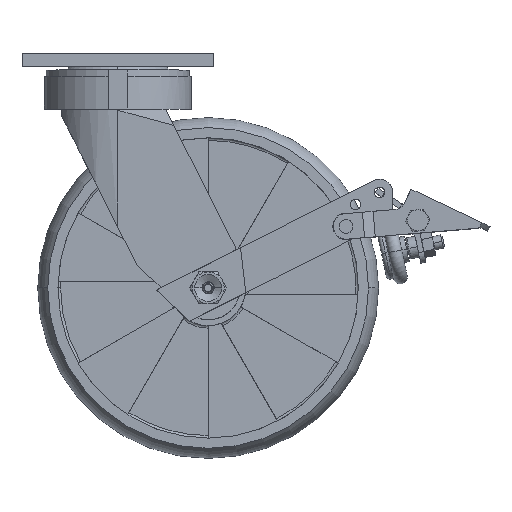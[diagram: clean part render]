
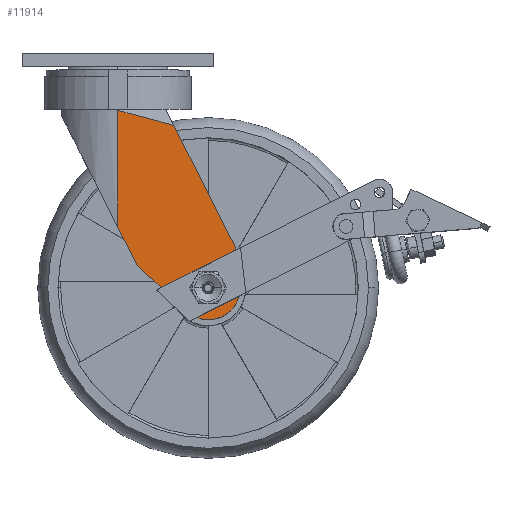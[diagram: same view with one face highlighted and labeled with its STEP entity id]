
A CAD part, top view. The second image highlights one B-rep face of the part: STEP entity #11914.
In plain terms, the highlighted planar face has unit normal (0, 0, 1).
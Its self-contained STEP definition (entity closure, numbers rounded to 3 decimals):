
#99 = ORIENTED_EDGE ( 'NONE', *, *, #7691, .F. ) ;
#593 = EDGE_CURVE ( 'NONE', #19851, #6032, #7371, .T. ) ;
#640 = DIRECTION ( 'NONE',  ( -0.729, 0.685, 0. ) ) ;
#667 = VERTEX_POINT ( 'NONE', #18648 ) ;
#722 = LINE ( 'NONE', #19701, #17463 ) ;
#946 = ORIENTED_EDGE ( 'NONE', *, *, #7251, .F. ) ;
#1041 = CARTESIAN_POINT ( 'NONE',  ( 72.898, -105.525, 37.592 ) ) ;
#1163 = CIRCLE ( 'NONE', #18172, 6.604 ) ;
#1267 = VERTEX_POINT ( 'NONE', #11206 ) ;
#1566 = LINE ( 'NONE', #8561, #2070 ) ;
#1702 = CARTESIAN_POINT ( 'NONE',  ( 72.898, -241.3, 37.592 ) ) ;
#2034 = CARTESIAN_POINT ( 'NONE',  ( 60.452, -106.655, 37.592 ) ) ;
#2070 = VECTOR ( 'NONE', #17775, 1000. ) ;
#2435 = CIRCLE ( 'NONE', #17365, 19.05 ) ;
#2983 = VERTEX_POINT ( 'NONE', #9695 ) ;
#3601 = DIRECTION ( 'NONE',  ( 1., 0., 0. ) ) ;
#3826 = ORIENTED_EDGE ( 'NONE', *, *, #20442, .F. ) ;
#4277 = EDGE_CURVE ( 'NONE', #11734, #19851, #5734, .T. ) ;
#4402 = EDGE_CURVE ( 'NONE', #667, #11591, #2435, .T. ) ;
#4404 = CARTESIAN_POINT ( 'NONE',  ( 53.848, -106.655, 37.592 ) ) ;
#4670 = LINE ( 'NONE', #12889, #5691 ) ;
#4850 = AXIS2_PLACEMENT_3D ( 'NONE', #9566, #17535, #7592 ) ;
#5012 = PLANE ( 'NONE',  #20550 ) ;
#5094 = VECTOR ( 'NONE', #16574, 1000. ) ;
#5185 = EDGE_LOOP ( 'NONE', ( #14166, #10225, #13679, #19974, #99, #15877, #13580, #9064 ) ) ;
#5383 = FACE_BOUND ( 'NONE', #8292, .T. ) ;
#5576 = VECTOR ( 'NONE', #20532, 1000. ) ;
#5691 = VECTOR ( 'NONE', #16350, 1000. ) ;
#5734 = LINE ( 'NONE', #12200, #12011 ) ;
#6032 = VERTEX_POINT ( 'NONE', #13454 ) ;
#6194 = CARTESIAN_POINT ( 'NONE',  ( 87.816, -230.847, 37.592 ) ) ;
#6660 = VERTEX_POINT ( 'NONE', #9287 ) ;
#7251 = EDGE_CURVE ( 'NONE', #1267, #7842, #20479, .T. ) ;
#7371 = LINE ( 'NONE', #14987, #5094 ) ;
#7592 = DIRECTION ( 'NONE',  ( 1., 0., 0. ) ) ;
#7691 = EDGE_CURVE ( 'NONE', #11591, #11734, #722, .T. ) ;
#7842 = VERTEX_POINT ( 'NONE', #2034 ) ;
#8292 = EDGE_LOOP ( 'NONE', ( #946, #3826 ) ) ;
#8504 = VERTEX_POINT ( 'NONE', #1041 ) ;
#8561 = CARTESIAN_POINT ( 'NONE',  ( 60.126, -16.907, 37.592 ) ) ;
#8662 = EDGE_CURVE ( 'NONE', #8504, #667, #19920, .T. ) ;
#9064 = ORIENTED_EDGE ( 'NONE', *, *, #16118, .F. ) ;
#9187 = DIRECTION ( 'NONE',  ( 0., 0., 1. ) ) ;
#9287 = CARTESIAN_POINT ( 'NONE',  ( 33.37, -9.738, 37.592 ) ) ;
#9566 = CARTESIAN_POINT ( 'NONE',  ( 53.848, -106.655, 37.592 ) ) ;
#9582 = LINE ( 'NONE', #6194, #5576 ) ;
#9695 = CARTESIAN_POINT ( 'NONE',  ( 70.173, -82.631, 37.592 ) ) ;
#9868 = CARTESIAN_POINT ( 'NONE',  ( 0., -241.3, 37.592 ) ) ;
#10007 = DIRECTION ( 'NONE',  ( 0., 0., 1. ) ) ;
#10225 = ORIENTED_EDGE ( 'NONE', *, *, #15141, .T. ) ;
#10804 = EDGE_CURVE ( 'NONE', #6660, #2983, #4670, .T. ) ;
#11206 = CARTESIAN_POINT ( 'NONE',  ( 47.244, -106.655, 37.592 ) ) ;
#11591 = VERTEX_POINT ( 'NONE', #16958 ) ;
#11734 = VERTEX_POINT ( 'NONE', #15902 ) ;
#11914 = ADVANCED_FACE ( 'NONE', ( #12174, #5383 ), #5012, .T. ) ;
#12011 = VECTOR ( 'NONE', #18565, 1000. ) ;
#12174 = FACE_OUTER_BOUND ( 'NONE', #5185, .T. ) ;
#12200 = CARTESIAN_POINT ( 'NONE',  ( 68.739, -206.595, 37.592 ) ) ;
#12226 = CARTESIAN_POINT ( 'NONE',  ( 0., -70.446, 37.592 ) ) ;
#12889 = CARTESIAN_POINT ( 'NONE',  ( 119.755, -180.838, 37.592 ) ) ;
#13454 = CARTESIAN_POINT ( 'NONE',  ( 0., -0.796, 37.592 ) ) ;
#13580 = ORIENTED_EDGE ( 'NONE', *, *, #8662, .F. ) ;
#13679 = ORIENTED_EDGE ( 'NONE', *, *, #593, .F. ) ;
#13726 = VECTOR ( 'NONE', #15976, 1000. ) ;
#14166 = ORIENTED_EDGE ( 'NONE', *, *, #10804, .F. ) ;
#14987 = CARTESIAN_POINT ( 'NONE',  ( 0., -241.3, 37.592 ) ) ;
#15141 = EDGE_CURVE ( 'NONE', #6660, #6032, #1566, .T. ) ;
#15630 = DIRECTION ( 'NONE',  ( 1., 0., 0. ) ) ;
#15720 = DIRECTION ( 'NONE',  ( 1., 0., 0. ) ) ;
#15877 = ORIENTED_EDGE ( 'NONE', *, *, #4402, .F. ) ;
#15902 = CARTESIAN_POINT ( 'NONE',  ( 11.293, -92.815, 37.592 ) ) ;
#15976 = DIRECTION ( 'NONE',  ( 0., -1., 0. ) ) ;
#16118 = EDGE_CURVE ( 'NONE', #2983, #8504, #9582, .T. ) ;
#16350 = DIRECTION ( 'NONE',  ( 0.451, -0.893, 0. ) ) ;
#16574 = DIRECTION ( 'NONE',  ( 0., 1., 0. ) ) ;
#16958 = CARTESIAN_POINT ( 'NONE',  ( 40.805, -120.539, 37.592 ) ) ;
#17365 = AXIS2_PLACEMENT_3D ( 'NONE', #4404, #18843, #15720 ) ;
#17463 = VECTOR ( 'NONE', #640, 1000. ) ;
#17535 = DIRECTION ( 'NONE',  ( 0., 0., 1. ) ) ;
#17775 = DIRECTION ( 'NONE',  ( -0.966, 0.259, 0. ) ) ;
#18172 = AXIS2_PLACEMENT_3D ( 'NONE', #18746, #9187, #15630 ) ;
#18565 = DIRECTION ( 'NONE',  ( -0.451, 0.893, 0. ) ) ;
#18648 = CARTESIAN_POINT ( 'NONE',  ( 72.898, -106.655, 37.592 ) ) ;
#18746 = CARTESIAN_POINT ( 'NONE',  ( 53.848, -106.655, 37.592 ) ) ;
#18843 = DIRECTION ( 'NONE',  ( 0., 0., -1. ) ) ;
#19701 = CARTESIAN_POINT ( 'NONE',  ( 79.392, -156.79, 37.592 ) ) ;
#19851 = VERTEX_POINT ( 'NONE', #12226 ) ;
#19920 = LINE ( 'NONE', #1702, #13726 ) ;
#19974 = ORIENTED_EDGE ( 'NONE', *, *, #4277, .F. ) ;
#20442 = EDGE_CURVE ( 'NONE', #7842, #1267, #1163, .T. ) ;
#20479 = CIRCLE ( 'NONE', #4850, 6.604 ) ;
#20532 = DIRECTION ( 'NONE',  ( 0.118, -0.993, 0. ) ) ;
#20550 = AXIS2_PLACEMENT_3D ( 'NONE', #9868, #10007, #3601 ) ;
